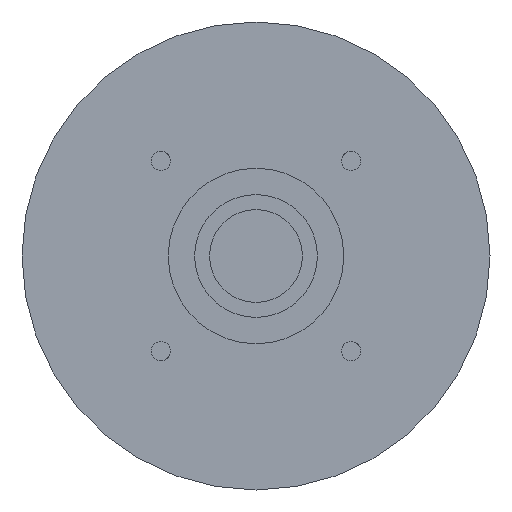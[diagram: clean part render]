
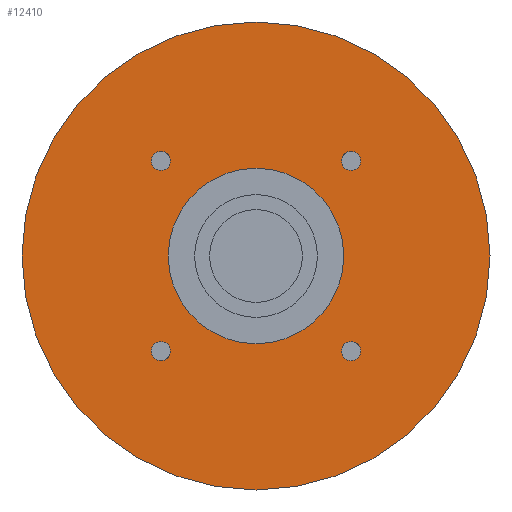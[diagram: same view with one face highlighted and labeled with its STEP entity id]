
A CAD part, left-side view. The second image highlights one B-rep face of the part: STEP entity #12410.
In plain terms, the highlighted planar face has unit normal (-1, 0, 0) as drawn and (0, 0, -1) by its records, which use the part's own axes.
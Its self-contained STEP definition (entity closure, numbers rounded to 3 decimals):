
#8680=CARTESIAN_POINT('',(-14.613,-16.263,-42.2));
#8690=VERTEX_POINT('',#8680);
#8720=CARTESIAN_POINT('',(-16.263,-16.263,-42.2));
#8730=DIRECTION('',(0.,0.,-1.));
#8740=DIRECTION('',(1.,0.,0.));
#8750=AXIS2_PLACEMENT_3D('',#8720,#8730,#8740);
#8760=CIRCLE('',#8750,1.65);
#8770=CARTESIAN_POINT('',(-17.913,-16.263,-42.2));
#8780=VERTEX_POINT('',#8770);
#8790=EDGE_CURVE('',#8780,#8690,#8760,.T.);
#9010=CARTESIAN_POINT('',(14.613,-16.263,-42.2));
#9020=VERTEX_POINT('',#9010);
#9070=CARTESIAN_POINT('',(16.263,-16.263,-42.2));
#9080=DIRECTION('',(0.,0.,-1.));
#9090=DIRECTION('',(1.,0.,0.));
#9100=AXIS2_PLACEMENT_3D('',#9070,#9080,#9090);
#9110=CIRCLE('',#9100,1.65);
#9120=CARTESIAN_POINT('',(17.913,-16.263,-42.2));
#9130=VERTEX_POINT('',#9120);
#9140=EDGE_CURVE('',#9130,#9020,#9110,.T.);
#11530=CARTESIAN_POINT('',(-40.,0.,-42.2));
#11540=VERTEX_POINT('',#11530);
#11620=CARTESIAN_POINT('',(40.,0.,-42.2));
#11630=VERTEX_POINT('',#11620);
#11660=CARTESIAN_POINT('',(0.,0.,
-42.2));
#11670=DIRECTION('',(0.,0.,1.));
#11680=DIRECTION('',(1.,0.,0.));
#11690=AXIS2_PLACEMENT_3D('',#11660,#11670,#11680);
#11700=CIRCLE('',#11690,40.);
#11710=EDGE_CURVE('',#11540,#11630,#11700,.T.);
#11760=CARTESIAN_POINT('',(0.,0.,
-42.2));
#11770=DIRECTION('',(0.,0.,-1.));
#11780=DIRECTION('',(1.,0.,0.));
#11790=AXIS2_PLACEMENT_3D('',#11760,#11770,#11780);
#11800=PLANE('',#11790);
#11810=CARTESIAN_POINT('',(-16.263,16.263,-42.2));
#11820=DIRECTION('',(0.,0.,-1.));
#11830=DIRECTION('',(1.,0.,0.));
#11840=AXIS2_PLACEMENT_3D('',#11810,#11820,#11830);
#11850=CIRCLE('',#11840,1.65);
#11860=CARTESIAN_POINT('',(-14.613,16.263,-42.2));
#11870=VERTEX_POINT('',#11860);
#11880=CARTESIAN_POINT('',(-17.913,16.263,-42.2));
#11890=VERTEX_POINT('',#11880);
#11900=EDGE_CURVE('',#11870,#11890,#11850,.T.);
#11910=ORIENTED_EDGE('',*,*,#11900,.F.);
#11920=EDGE_CURVE('',#11890,#11870,#11850,.T.);
#11930=ORIENTED_EDGE('',*,*,#11920,.F.);
#11940=EDGE_LOOP('',(#11930,#11910));
#11950=FACE_BOUND('',#11940,.T.);
#11960=CARTESIAN_POINT('',(0.,0.,
-42.2));
#11970=DIRECTION('',(0.,0.,1.));
#11980=DIRECTION('',(1.,0.,0.));
#11990=AXIS2_PLACEMENT_3D('',#11960,#11970,#11980);
#12000=CIRCLE('',#11990,15.);
#12010=CARTESIAN_POINT('',(15.,0.,-42.2));
#12020=VERTEX_POINT('',#12010);
#12030=CARTESIAN_POINT('',(-15.,0.,-42.2));
#12040=VERTEX_POINT('',#12030);
#12050=EDGE_CURVE('',#12020,#12040,#12000,.T.);
#12060=ORIENTED_EDGE('',*,*,#12050,.T.);
#12070=EDGE_CURVE('',#12040,#12020,#12000,.T.);
#12080=ORIENTED_EDGE('',*,*,#12070,.T.);
#12090=EDGE_LOOP('',(#12080,#12060));
#12100=FACE_BOUND('',#12090,.T.);
#12110=CARTESIAN_POINT('',(16.263,16.263,-42.2));
#12120=DIRECTION('',(0.,0.,-1.));
#12130=DIRECTION('',(1.,0.,0.));
#12140=AXIS2_PLACEMENT_3D('',#12110,#12120,#12130);
#12150=CIRCLE('',#12140,1.65);
#12160=CARTESIAN_POINT('',(17.913,16.263,-42.2));
#12170=VERTEX_POINT('',#12160);
#12180=CARTESIAN_POINT('',(14.613,16.263,-42.2));
#12190=VERTEX_POINT('',#12180);
#12200=EDGE_CURVE('',#12170,#12190,#12150,.T.);
#12210=ORIENTED_EDGE('',*,*,#12200,.F.);
#12220=EDGE_CURVE('',#12190,#12170,#12150,.T.);
#12230=ORIENTED_EDGE('',*,*,#12220,.F.);
#12240=EDGE_LOOP('',(#12230,#12210));
#12250=FACE_BOUND('',#12240,.T.);
#12260=ORIENTED_EDGE('',*,*,#9140,.F.);
#12270=EDGE_CURVE('',#9020,#9130,#9110,.T.);
#12280=ORIENTED_EDGE('',*,*,#12270,.F.);
#12290=EDGE_LOOP('',(#12280,#12260));
#12300=FACE_BOUND('',#12290,.T.);
#12310=EDGE_CURVE('',#8690,#8780,#8760,.T.);
#12320=ORIENTED_EDGE('',*,*,#12310,.F.);
#12330=ORIENTED_EDGE('',*,*,#8790,.F.);
#12340=EDGE_LOOP('',(#12330,#12320));
#12350=FACE_BOUND('',#12340,.T.);
#12360=EDGE_CURVE('',#11630,#11540,#11700,.T.);
#12370=ORIENTED_EDGE('',*,*,#12360,.F.);
#12380=ORIENTED_EDGE('',*,*,#11710,.F.);
#12390=EDGE_LOOP('',(#12380,#12370));
#12400=FACE_OUTER_BOUND('',#12390,.T.);
#12410=ADVANCED_FACE('',(#11950,#12100,#12250,#12300,#12350,#12400),
#11800,.T.);
